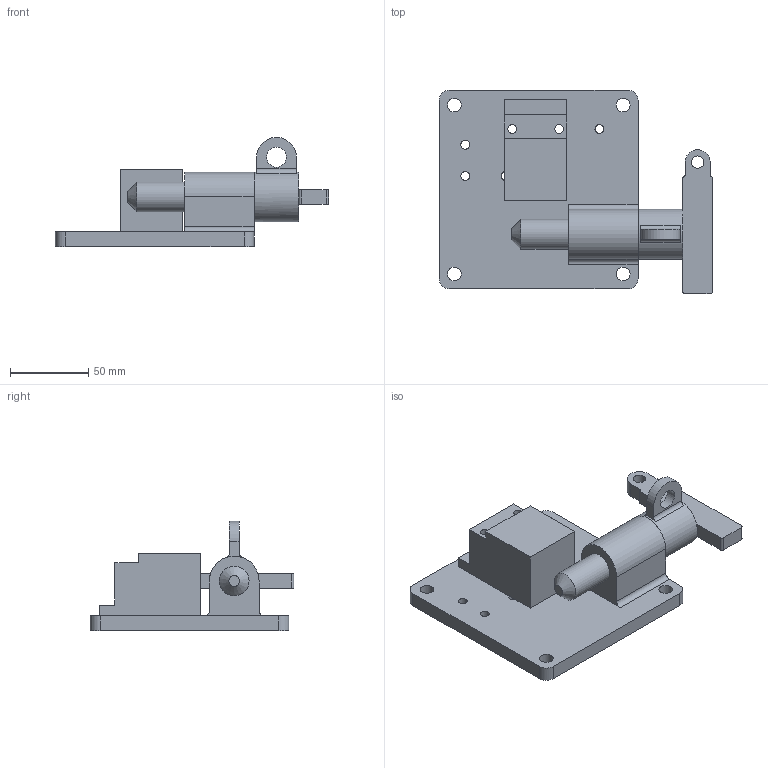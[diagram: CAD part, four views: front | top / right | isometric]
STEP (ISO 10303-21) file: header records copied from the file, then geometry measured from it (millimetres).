
FILE_DESCRIPTION(/* description */ (''),/* implementation_level */ '2;1');
FILE_NAME(/* name */ 'C:\Users\rcarver\Desktop\Tru-LOK pin\Ford-FCA\With Switch\SP19Y075TY00201.stp',/* time_stamp */ '2016-06-21T11:10:17-04:00',/* author */ ('rcarver'),/* organization */ (''),/* preprocessor_version */ 'ST-DEVELOPER v16.5',/* originating_system */ 'Autodesk Inventor 2017',/* authorisation */ '');
FILE_SCHEMA (('AUTOMOTIVE_DESIGN { 1 0 10303 214 3 1 1 }'));
Length unit declared in the file: millimetre
Products named in the file (1): SP19Y075TY00201
Bounding box: 174.62 x 130.18 x 69.85 mm (x, y, z)
Volume: 334242.8 mm3; surface area: 69385.5 mm2
Topology: 3 solids, 3 shells, 69 faces, 192 edges, 131 vertices
Faces by surface type: plane 37, cylinder 31, cone 1
Full cylindrical faces by diameter (mm): 5.588 x2, 5.59 x6, 7.94 x1, 8.74 x4, 12.7 x1, 19 x1, 31.75 x1
Entity records: 2196 total; most frequent: DIRECTION 368, CARTESIAN_POINT 346, ORIENTED_EDGE 320, EDGE_CURVE 160, AXIS2_PLACEMENT_3D 138, EDGE_LOOP 116, VERTEX_POINT 116, LINE 92
